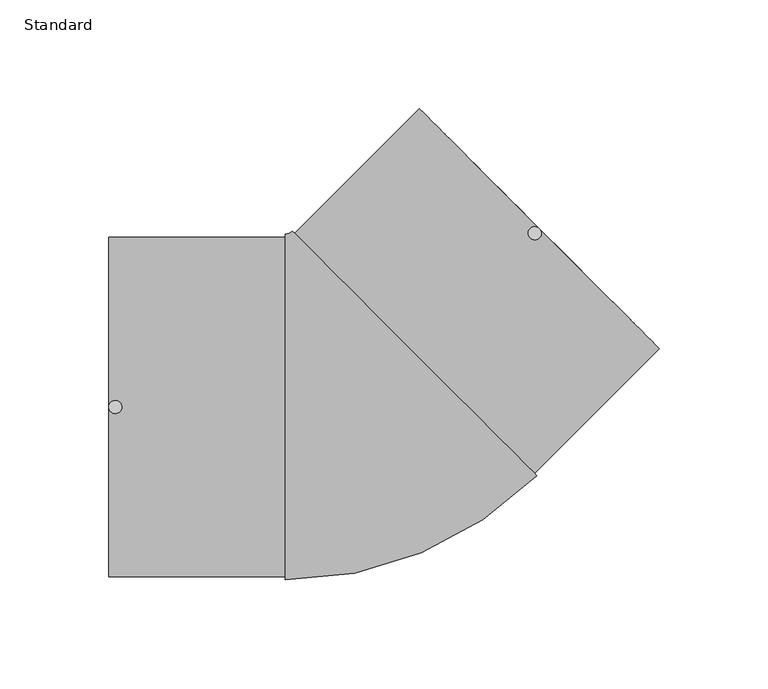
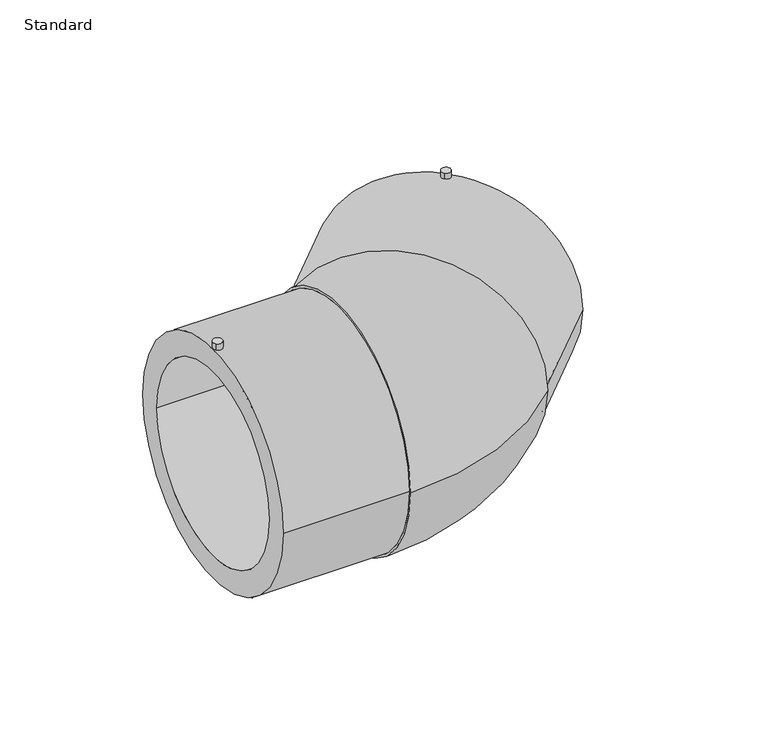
"""IFC4 building model written with IfcOpenShell, lengths in millimetres: pipe fitting geometry, EGB_VASEN_ PPR_Codo electrosoldable 90 WXRD200_Codo electrosoldable 45 WXRD220 : Standard."""

from ifc_helpers import new_model, si_unit, point, frame, frame_2d, origin, place, context, project, spatial, polyline, circle_curve, ellipse_curve, trimmed, segment, composite_curve, outline, extrude, source, transform, mapped, element, save
from ifc_brep_helpers import plane_surface, cylinder_surface, revolved_surface, advanced_brep


def standard_e40a032c(model_context):
    return source(origin(), model_context, "Body", "SolidModel", [
        advanced_brep(
        [(-116.0, -78.0, 0.0), (-116.0, 78.0, 0.0), (-116.0, -62.5, 0.0), (-116.0, 62.5, 0.0), (-34.9299782, -78.0, 0.0), (-34.9299782, 78.0, 0.0), (-34.9299782, -62.5, 0.0), (-34.9299782, 62.5, 0.0), (-34.9299782, -79.5, 0.0), (-34.9299782, 79.5, 0.0), (80.9142136, -31.5157646, 0.0), (-31.5157646, 80.9142136, 0.0), (79.8535534, -30.4551045, 0.0), (-30.4551045, 79.8535534, 0.0), (68.8933983, -19.4949494, 0.0), (-19.4949494, 68.8933983, 0.0), (137.1787156, 26.8700577, 0.0), (26.8700577, 137.1787156, 0.0), (126.2185604, 37.8302128, 0.0), (37.8302128, 126.2185604, 0.0)],
        [
            (0, 1, circle_curve(frame((-116.0, 0.0, 0.0), z_axis=(-1.0, 0.0, 0.0), x_axis=(0.0, 1.0, 0.0)), 78.0)),
            (1, 0, circle_curve(frame((-116.0, 0.0, 0.0), z_axis=(-1.0, 0.0, 0.0), x_axis=(0.0, 1.0, 0.0)), 78.0)),
            (2, 3, circle_curve(frame((-116.0, 0.0, 0.0), z_axis=(1.0, 0.0, 0.0), x_axis=(0.0, 1.0, 0.0)), 62.5)),
            (3, 2, circle_curve(frame((-116.0, 0.0, 0.0), z_axis=(1.0, 0.0, 0.0), x_axis=(0.0, 1.0, 0.0)), 62.5)),
            (0, 4),
            (4, 5, circle_curve(frame((-34.9299782, 0.0, 0.0), z_axis=(-1.0, 0.0, 0.0), x_axis=(0.0, 1.0, 0.0)), 78.0)),
            (5, 1),
            (5, 4, circle_curve(frame((-34.9299782, 0.0, 0.0), z_axis=(-1.0, 0.0, 0.0), x_axis=(0.0, 1.0, 0.0)), 78.0)),
            (2, 6),
            (6, 7, circle_curve(frame((-34.9299782, 0.0, 0.0), z_axis=(1.0, 0.0, 0.0), x_axis=(0.0, 1.0, 0.0)), 62.5)),
            (7, 3),
            (7, 6, circle_curve(frame((-34.9299782, 0.0, 0.0), z_axis=(1.0, 0.0, 0.0), x_axis=(0.0, 1.0, 0.0)), 62.5)),
            (8, 9, circle_curve(frame((-34.9299782, 0.0, 0.0), z_axis=(-1.0, 0.0, 0.0), x_axis=(0.0, 1.0, 0.0)), 79.5)),
            (9, 8, circle_curve(frame((-34.9299782, 0.0, 0.0), z_axis=(-1.0, 0.0, 0.0), x_axis=(0.0, 1.0, 0.0)), 79.5)),
            (10, 11, circle_curve(frame((24.6992245, 24.6992245, 0.0), z_axis=(0.7071067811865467, 0.7071067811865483, 0.0), x_axis=(-0.7071067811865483, 0.7071067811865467, 0.0)), 79.5)),
            (11, 10, circle_curve(frame((24.6992245, 24.6992245, 0.0), z_axis=(0.7071067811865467, 0.7071067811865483, 0.0), x_axis=(-0.7071067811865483, 0.7071067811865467, 0.0)), 79.5)),
            (12, 13, circle_curve(frame((24.6992245, 24.6992245, 0.0), z_axis=(-0.7071067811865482, -0.7071067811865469, 0.0), x_axis=(-0.7071067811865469, 0.7071067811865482, 0.0)), 78.0)),
            (13, 12, circle_curve(frame((24.6992245, 24.6992245, 0.0), z_axis=(-0.7071067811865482, -0.7071067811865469, 0.0), x_axis=(-0.7071067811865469, 0.7071067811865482, 0.0)), 78.0)),
            (14, 15, circle_curve(frame((24.6992245, 24.6992245, 0.0), z_axis=(0.7071067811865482, 0.7071067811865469, 0.0), x_axis=(-0.7071067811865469, 0.7071067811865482, 0.0)), 62.5)),
            (15, 14, circle_curve(frame((24.6992245, 24.6992245, 0.0), z_axis=(0.7071067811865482, 0.7071067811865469, 0.0), x_axis=(-0.7071067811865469, 0.7071067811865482, 0.0)), 62.5)),
            (8, 10, circle_curve(frame((-34.9299782, 84.3284271, 0.0), z_axis=(0.0, 0.0, 1.0), x_axis=(0.0, -1.0, 0.0)), 163.8284271)),
            (11, 9, circle_curve(frame((-34.9299782, 84.3284271, 0.0), z_axis=(0.0, 0.0, -1.0), x_axis=(0.0, -1.0, 0.0)), 4.8284271)),
            (16, 17, circle_curve(frame((82.0243866, 82.0243866, 0.0), z_axis=(0.7071067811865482, 0.7071067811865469, 0.0), x_axis=(-0.7071067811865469, 0.7071067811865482, 0.0)), 78.0)),
            (17, 16, circle_curve(frame((82.0243866, 82.0243866, 0.0), z_axis=(0.7071067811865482, 0.7071067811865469, 0.0), x_axis=(-0.7071067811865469, 0.7071067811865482, 0.0)), 78.0)),
            (18, 19, circle_curve(frame((82.0243866, 82.0243866, 0.0), z_axis=(-0.7071067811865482, -0.7071067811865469, 0.0), x_axis=(-0.7071067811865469, 0.7071067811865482, 0.0)), 62.5)),
            (19, 18, circle_curve(frame((82.0243866, 82.0243866, 0.0), z_axis=(-0.7071067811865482, -0.7071067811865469, 0.0), x_axis=(-0.7071067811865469, 0.7071067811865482, 0.0)), 62.5)),
            (17, 13),
            (12, 16),
            (19, 15),
            (14, 18),
        ],
        [
            plane_surface(frame((-116.0, 0.0, 0.0), z_axis=(-1.0, 0.0, 0.0), x_axis=(0.0, 0.0, 1.0))),
            cylinder_surface(frame((-116.0, 0.0, 0.0), z_axis=(-1.0, 0.0, 0.0), x_axis=(0.0, 1.0, 0.0)), 78.0),
            revolved_surface(polyline([(-34.929978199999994, 62.5, 0.0), (-116.0, 62.5, 0.0)]), (-116.0, 0.0, 0.0), (1.0, 0.0, 0.0)),
            plane_surface(frame((-34.9299782, 0.0, 0.0), z_axis=(-1.0, 0.0, 0.0), x_axis=(0.0, 0.0, 1.0))),
            plane_surface(frame((24.6992245, 24.6992245, 0.0), z_axis=(0.7071067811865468, 0.7071067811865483, 0.0), x_axis=(0.0, 0.0, 1.0))),
            revolved_surface(trimmed(ellipse_curve(frame((-34.9299782, 0.0, 0.0), z_axis=(-1.0, 0.0, 0.0), x_axis=(0.0, 1.0, 0.0)), 79.5, 79.5), [point((-34.9299782, -79.5, 0.0))], [point((-34.9299782, 79.5, 0.0))], True, "CARTESIAN"), (-34.9299782, 84.3284271, 0.0), (0.0, 0.0, 1.0)),
            revolved_surface(trimmed(ellipse_curve(frame((-34.9299782, 0.0, 0.0), z_axis=(-1.0, 0.0, 0.0), x_axis=(0.0, 1.0, 0.0)), 79.5, 79.5), [point((-34.9299782, 79.5, 0.0))], [point((-34.9299782, -79.5, 0.0))], True, "CARTESIAN"), (-34.9299782, 84.3284271, 0.0), (0.0, 0.0, 1.0)),
            plane_surface(frame((82.0243866, 82.0243866, 0.0), z_axis=(0.7071067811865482, 0.7071067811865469, 0.0), x_axis=(0.0, 0.0, 1.0))),
            cylinder_surface(frame((24.6992245, 24.6992245, 0.0), z_axis=(-0.7071067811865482, -0.7071067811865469, 0.0), x_axis=(-0.7071067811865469, 0.7071067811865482, 0.0)), 78.0),
            revolved_surface(polyline([(37.83021277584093, 126.21856042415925, 0.0), (-19.49494937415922, 68.89339827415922, 0.0)]), (24.6992245, 24.6992245, 0.0), (0.7071067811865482, 0.7071067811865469, 0.0)),
        ],
        [
            (0, [[1, 2], [3, 4]]),
            (1, [[-1, 5, 6, 7]]),
            (1, [[-2, -7, 8, -5]]),
            (2, [[-3, 9, 10, 11]]),
            (2, [[-4, -11, 12, -9]]),
            (3, [[-10, -12]]),
            (3, [[13, 14], [-6, -8]]),
            (4, [[15, 16], [17, 18]]),
            (4, [[19, 20]]),
            (5, [[-13, 21, -16, 22]]),
            (6, [[-14, -22, -15, -21]]),
            (7, [[23, 24], [25, 26]]),
            (8, [[-24, 27, -17, 28]]),
            (8, [[-23, -28, -18, -27]]),
            (9, [[-26, 29, -19, 30]]),
            (9, [[-25, -30, -20, -29]]),
        ],
    ),
        extrude(outline(composite_curve([segment(trimmed(circle_curve(frame_2d((79.9030663, 79.9030663)), 3.0), [point((77.7817459, 77.7817459))], [point((82.0243866, 82.0243866))], False, "CARTESIAN"), True, "CONTINUOUS"), segment(trimmed(circle_curve(frame_2d((79.9030663, 79.9030663)), 3.0), [point((82.0243866, 82.0243866))], [point((77.7817459, 77.7817459))], False, "CARTESIAN"), True, "CONTINUOUS")], self_intersect=False)), frame((0.0, 0.0, 63.5), z_axis=(0.0, 0.0, 1.0), x_axis=(1.0, 0.0, 0.0)), (0.0, 0.0, 1.0), 19.0),
        extrude(outline(composite_curve([segment(trimmed(circle_curve(frame_2d((-113.0, 0.0)), 3.0), [point((-115.1213203, -2.1213203))], [point((-110.8786797, 2.1213203))], False, "CARTESIAN"), True, "CONTINUOUS"), segment(trimmed(circle_curve(frame_2d((-113.0, 0.0)), 3.0), [point((-110.8786797, 2.1213203))], [point((-115.1213203, -2.1213203))], False, "CARTESIAN"), True, "CONTINUOUS")], self_intersect=False)), frame((0.0, 0.0, 63.5), z_axis=(0.0, 0.0, 1.0), x_axis=(1.0, 0.0, 0.0)), (0.0, 0.0, 1.0), 19.0),
    ])


if __name__ == "__main__":
    model = new_model("IFC4")
    model_context = context("Model", 3, world=origin())
    ifc_project = project(units=[si_unit("LENGTHUNIT", "METRE", prefix="MILLI")], contexts=[model_context])
    site = spatial("IfcSite", under=ifc_project)
    building = spatial("IfcBuilding", under=site)
    placement = place(None, origin())
    standard_shape = standard_e40a032c(model_context)
    element("IfcPipeFitting", 1, ObjectType="EGB_VASEN_ PPR_Codo electrosoldable 90 WXRD200_Codo electrosoldable 45 WXRD220 : Standard", at=placement, inside=building, context=model_context, shape_type="MappedRepresentation", body=[
        mapped(standard_shape, transform((0.0, 0.0, 0.0), x_axis=(1.0, 0.0, 0.0), y_axis=(0.0, 1.0, 0.0), z_axis=(0.0, 0.0, 1.0))),
    ])
    save(model, "model.ifc")
